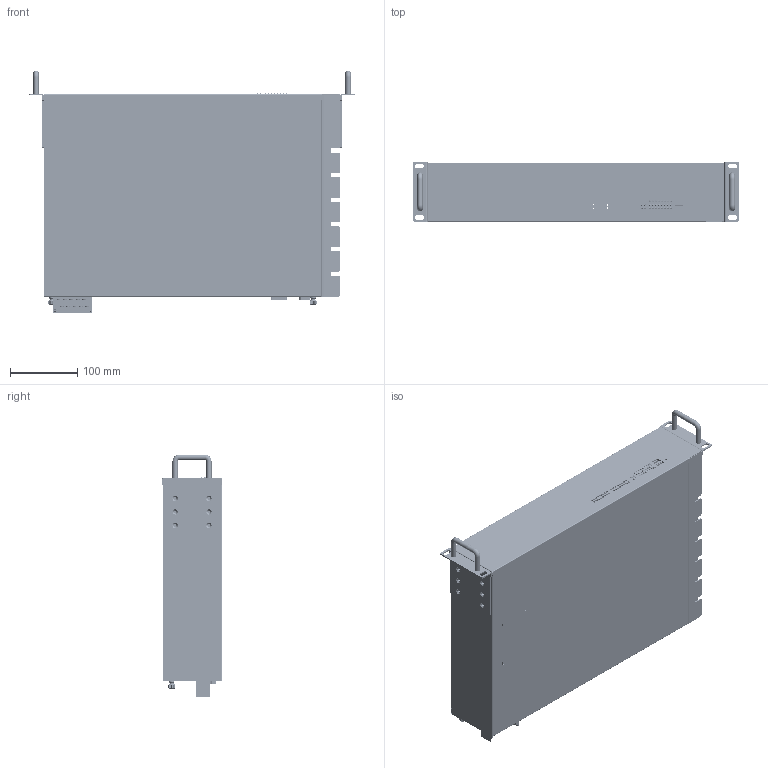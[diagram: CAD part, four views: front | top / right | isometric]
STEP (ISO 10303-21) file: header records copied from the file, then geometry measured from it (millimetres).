
FILE_DESCRIPTION((''),'2;1');
FILE_NAME('DA-720_SYSTEM-ASSEMBLY','2016-11-16T',('Justin_Huang'),(''),'PRO/ENGINEER BY PARAMETRIC TECHNOLOGY CORPORATION, 2013230','PRO/ENGINEER BY PARAMETRIC TECHNOLOGY CORPORATION, 2013230','');
FILE_SCHEMA(('AUTOMOTIVE_DESIGN { 1 0 10303 214 1 1 1 1 }'));
Products named in the file (1): DA-720_SYSTEM-ASSEMBLY
Bounding box: 482.6 x 89 x 360.1 mm (x, y, z)
Surface area: 1520975.6 mm2 (no closed solid volume)
Topology: 0 solids, 214 shells, 12939 faces, 33870 edges, 21954 vertices
Faces by surface type: plane 8273, cylinder 3808, cone 380, bspline 228, torus 178, sphere 72
Entity records: 483731 total; most frequent: CARTESIAN_POINT 87725, ORIENTED_EDGE 67096, DIRECTION 65666, EDGE_CURVE 33622, PRESENTATION_STYLE_ASSIGNMENT 24555, STYLED_ITEM 24439, CURVE_STYLE 24339, VECTOR 22790
